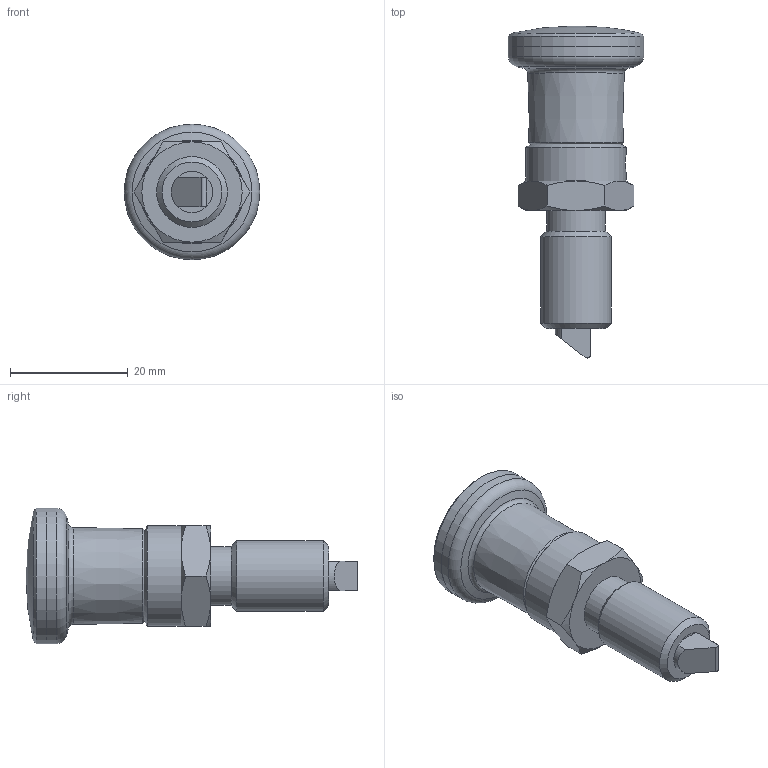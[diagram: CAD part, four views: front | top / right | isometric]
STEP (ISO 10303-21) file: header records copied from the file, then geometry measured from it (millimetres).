
FILE_DESCRIPTION(/* description */ ('STEP AP214'),/* implementation_level */ '2;1');
FILE_NAME(/* name */ 'Indexing Plunger_ Stainless Steel GN 824-5-5-C-NI (deactivated)',/* time_stamp */ '2024-11-28T10:49:24+01:00',/* author */ ('License CC BY-ND 4.0'),/* organization */ ('CADENAS'),/* preprocessor_version */ 'ST-DEVELOPER v19.3',/* originating_system */ 'PARTsolutions',/* authorisation */ ' ');
FILE_SCHEMA (('AUTOMOTIVE_DESIGN {1 0 10303 214 3 1 1}'));
Length unit declared in the file: millimetre
Products named in the file (3): Indexing Plunger, Stainless Steel GN 824-5-5-C-NI (deactivated); Indexing Plunger, Stainless Steel GN 824-5-5-C-NI (closed)-1; Indexing Plunger, Stainless Steel GN 824-5-5-C-NI (closed)-2
Assembly tree (2 placements, depth 2):
  Indexing Plunger, Stainless Steel GN 824-5-5-C-NI (deactivated)
    Indexing Plunger, Stainless Steel GN 824-5-5-C-NI (closed)-1
    Indexing Plunger, Stainless Steel GN 824-5-5-C-NI (closed)-2
Bounding box: 23 x 56.3 x 23 mm (x, y, z)
Volume: 8885.3 mm3; surface area: 6693.5 mm2
Topology: 2 solids, 2 shells, 83 faces, 179 edges, 111 vertices
Faces by surface type: plane 40, cone 21, cylinder 18, torus 3, sphere 1
Full cylindrical faces by diameter (mm): 3.3 x1, 5 x2, 7 x2, 8 x2, 9 x1, 10 x1, 12 x1, 17 x1, 22.98 x1, 23 x1
Entity records: 2749 total; most frequent: CARTESIAN_POINT 454, DIRECTION 348, ORIENTED_EDGE 294, AXIS2_PLACEMENT_3D 149, EDGE_CURVE 147, EDGE_LOOP 122, FACE_BOUND 122, VERTEX_POINT 105
